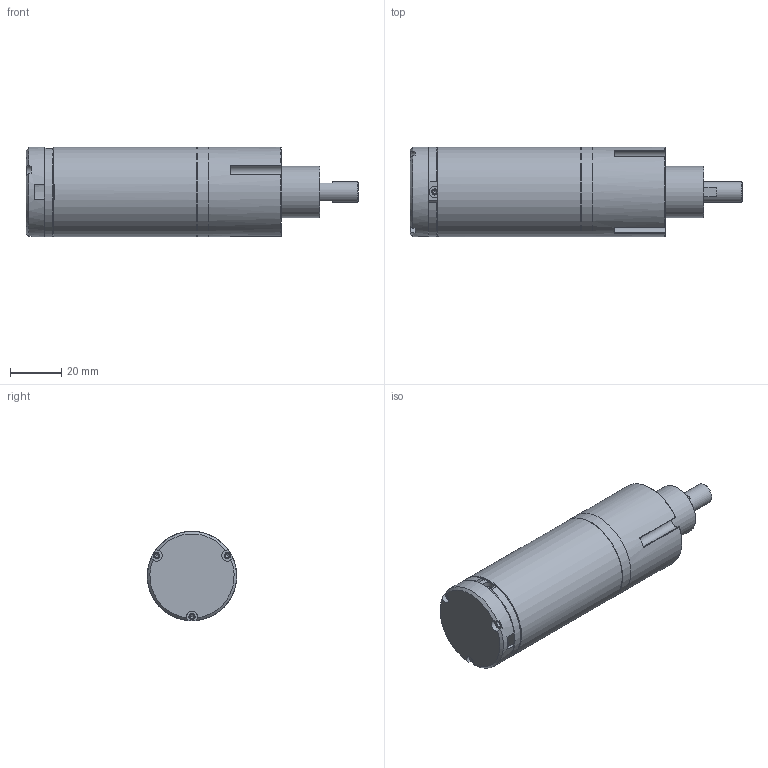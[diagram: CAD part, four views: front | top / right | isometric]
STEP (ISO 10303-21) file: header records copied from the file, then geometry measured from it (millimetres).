
FILE_DESCRIPTION((''),'2;1');
FILE_NAME('E:\CBL SIR FOR MIKE FERRIS\CBL35-015-5X-1.stp','2016-01-27T09:43:47',('ryan'),(''),'Autodesk Inventor 2008','Autodesk Inventor 2008','');
FILE_SCHEMA(('AUTOMOTIVE_DESIGN { 1 0 10303 214 1 1 1 1 }'));
Length unit declared in the file: millimetre
Products named in the file (28): CA235-015-5_V13; CA2-35-10-FRONT-V13; 18568-01_V13; 16588-10_A; LM_81517_2_14a; CBL35 LUB; CA2-35-15-MAGHSG_V13; 14714-15_B; MAG-CA2-35-15; 66566-15_A; 14714-04_V13; 14714-16_V13; AEDR-V2; EADR-PCB_V2; AEDR-859X; AEDR-SCALE_V2; JST8-0.5; LD-AEDR; 22991-01_B; 23634-01_A; CA2-35-10-PIST_V10; 21564-07_A; CA23510-FLEX1_V10; CA235MAIN; SM04B-SSR-H-TB; SM98B-SSR-H-TB; 8JST-0.5
Assembly tree (33 placements, depth 4):
  CA235-015-5_V13
    CA2-35-10-FRONT-V13
      18568-01_V13
      16588-10_A
      LM_81517_2_14a
      CBL35 LUB
    CA2-35-15-MAGHSG_V13
      14714-15_B
      MAG-CA2-35-15
        66566-15_A  x5
      14714-04_V13
      14714-16_V13
    AEDR-V2
      EADR-PCB_V2
      AEDR-859X
      AEDR-SCALE_V2
      JST8-0.5
      LD-AEDR
    22991-01_B
    23634-01_A
    CA2-35-10-PIST_V10
      AEDR-SCALE_V2
      21564-07_A
    CA23510-FLEX1_V10
    CA235MAIN
      CA235MAIN
      SM04B-SSR-H-TB
      SM98B-SSR-H-TB
      8JST-0.5  x2
Bounding box: 130 x 35 x 35 mm (x, y, z)
Volume: 72340.8 mm3; surface area: 50880 mm2
Topology: 27 solids, 27 shells, 1320 faces, 3562 edges, 2330 vertices
Faces by surface type: plane 950, bspline 211, cylinder 131, cone 27, torus 1
Full cylindrical faces by diameter (mm): 3 x1, 6 x1, 8 x2, 8.7 x2, 9.5 x2, 11.5 x1, 14.3 x2, 15 x6, 16 x1, 18.4 x1, 20 x1, 27 x1, 35 x4
Entity records: 40471 total; most frequent: CARTESIAN_POINT 9726, ORIENTED_EDGE 6342, DIRECTION 5726, EDGE_CURVE 3171, VECTOR 2630, LINE 2630, VERTEX_POINT 2123, AXIS2_PLACEMENT_3D 1548
